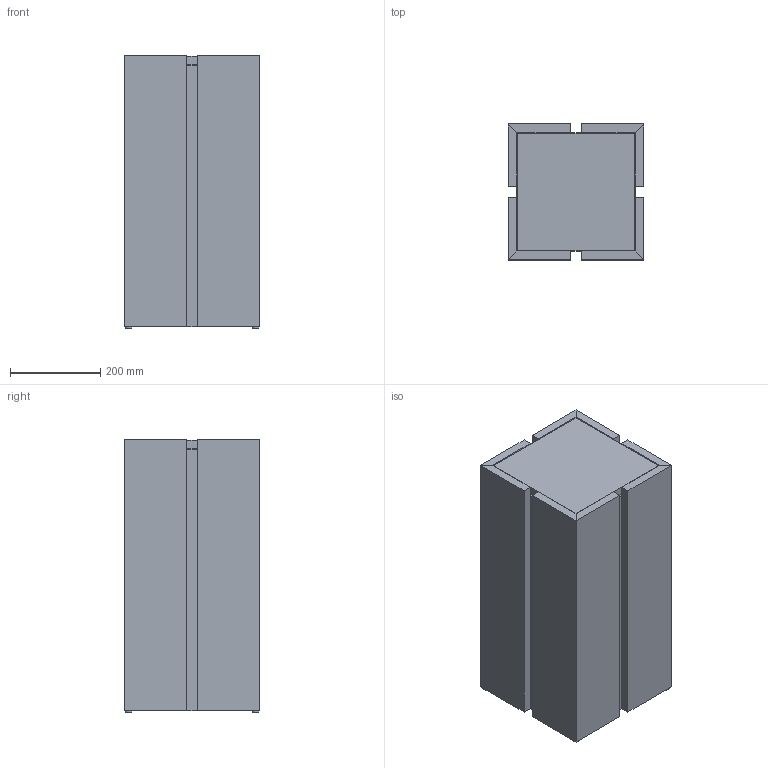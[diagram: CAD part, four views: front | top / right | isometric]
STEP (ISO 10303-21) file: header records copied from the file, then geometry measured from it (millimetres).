
FILE_DESCRIPTION(/* description */ (''),/* implementation_level */ '2;1');
FILE_NAME(/* name */ 'Parcel Pedestal with Storage - 600_Ferm Living_3D',/* time_stamp */ '2026-01-28T16:18:07+01:00',/* author */ (''),/* organization */ (''),/* preprocessor_version */ 'ST-DEVELOPER v19.2',/* originating_system */ 'Rhino 8.19',/* authorisation */ '');
FILE_SCHEMA (('CONFIG_CONTROL_DESIGN'));
Length unit declared in the file: millimetre
Products named in the file (1): Document
Bounding box: 300 x 300 x 604 mm (x, y, z)
Volume: 21149292.5 mm3; surface area: 2944010.7 mm2
Topology: 19 solids, 19 shells, 102 faces, 192 edges, 128 vertices
Faces by surface type: plane 86, cylinder 16
Entity records: 2416 total; most frequent: CARTESIAN_POINT 648, ORIENTED_EDGE 384, EDGE_CURVE 192, DIRECTION 170, B_SPLINE_CURVE_WITH_KNOTS 160, AXIS2_PLACEMENT_3D 136, VERTEX_POINT 128, EDGE_LOOP 104
